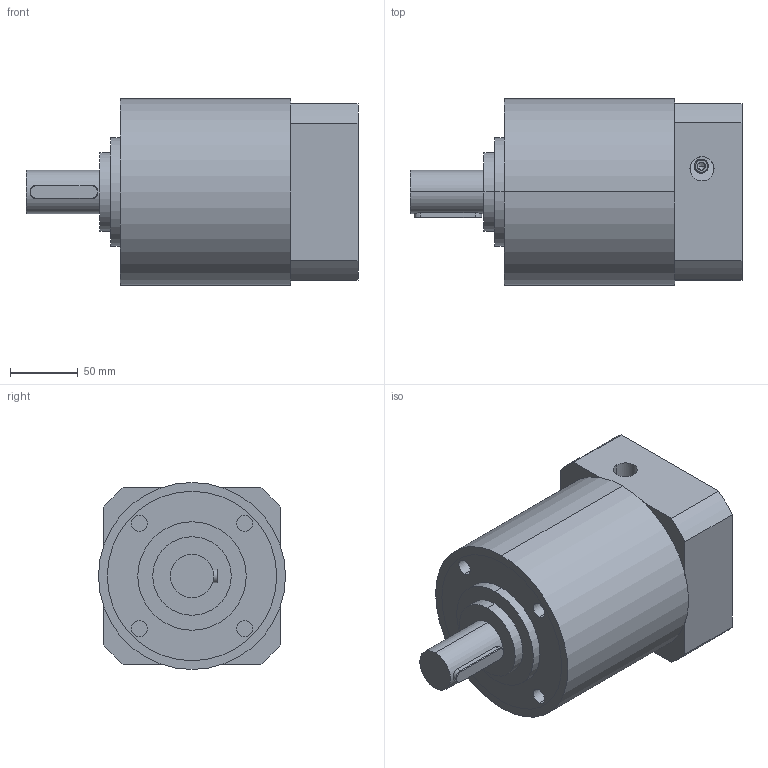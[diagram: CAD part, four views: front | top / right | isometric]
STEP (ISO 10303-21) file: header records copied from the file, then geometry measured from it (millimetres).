
FILE_DESCRIPTION (( 'STEP AP214' ), '1' );
FILE_NAME ('HTRG13N___MHS40224M_1stage_10.STEP', '2019-11-03T15:08:41', ( '' ), ( '' ), 'SwSTEP 2.0', 'SolidWorks 2018', '' );
FILE_SCHEMA (( 'AUTOMOTIVE_DESIGN' ));
Length unit declared in the file: millimetre
Products named in the file (1): HTRG13N___MHS40224M_1stage_10
Bounding box: 245 x 138 x 138 mm (x, y, z)
Volume: 2558292.6 mm3; surface area: 252707.4 mm2
Topology: 10 solids, 10 shells, 176 faces, 379 edges, 243 vertices
Faces by surface type: cylinder 88, plane 63, cone 21, bspline 4
Entity records: 5440 total; most frequent: CARTESIAN_POINT 1338, DIRECTION 895, ORIENTED_EDGE 754, EDGE_CURVE 377, AXIS2_PLACEMENT_3D 370, VERTEX_POINT 243, EDGE_LOOP 214, CIRCLE 197
